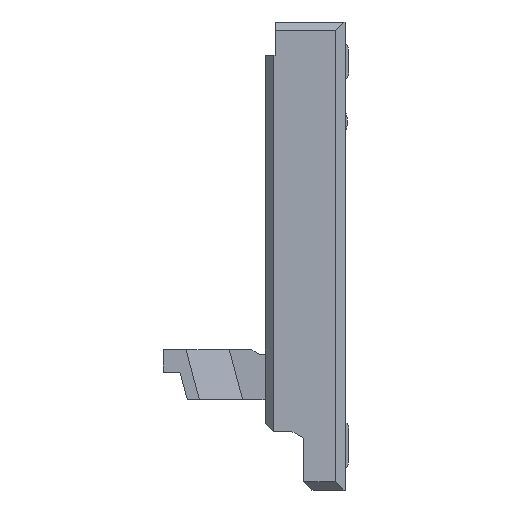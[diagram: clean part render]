
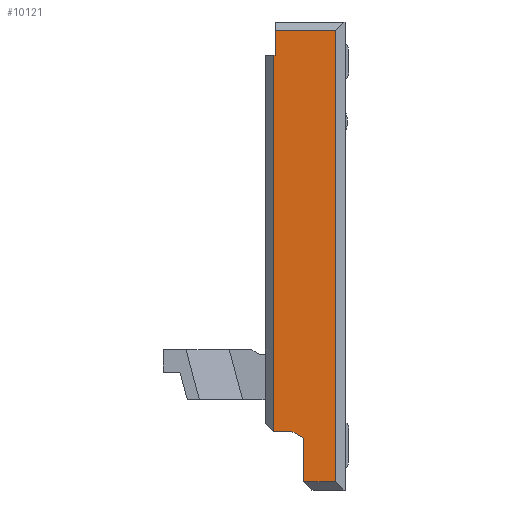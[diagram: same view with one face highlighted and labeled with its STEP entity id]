
A CAD part, left-side view. The second image highlights one B-rep face of the part: STEP entity #10121.
In plain terms, the highlighted planar face has unit normal (-1, 0, 0).
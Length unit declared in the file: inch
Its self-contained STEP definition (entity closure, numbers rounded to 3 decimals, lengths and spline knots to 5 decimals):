
#392 = LINE ( 'NONE', #15542, #17296 ) ;
#722 = EDGE_CURVE ( 'NONE', #9411, #16881, #15004, .T. ) ;
#1120 = CARTESIAN_POINT ( 'NONE',  ( -0.09134, 0.00236, 0. ) ) ;
#1184 = CARTESIAN_POINT ( 'NONE',  ( -0.09134, 0., 0. ) ) ;
#1200 = DIRECTION ( 'NONE',  ( 0., 0., 1. ) ) ;
#1861 = CARTESIAN_POINT ( 'NONE',  ( -0.09134, 0.00236, -0.00197 ) ) ;
#2448 = DIRECTION ( 'NONE',  ( 0., 1., 0. ) ) ;
#2456 = VECTOR ( 'NONE', #1200, 39.37008 ) ;
#2828 = DIRECTION ( 'NONE',  ( 0., 1., 0. ) ) ;
#2834 = DIRECTION ( 'NONE',  ( 0., 0., -1. ) ) ;
#3551 = VERTEX_POINT ( 'NONE', #6028 ) ;
#3937 = EDGE_CURVE ( 'NONE', #14808, #10163, #17462, .T. ) ;
#4745 = VERTEX_POINT ( 'NONE', #11105 ) ;
#5290 = CARTESIAN_POINT ( 'NONE',  ( -0.09134, 0.01654, -0.00787 ) ) ;
#5298 = EDGE_CURVE ( 'NONE', #8172, #4745, #14854, .T. ) ;
#5813 = EDGE_CURVE ( 'NONE', #3551, #16608, #8975, .T. ) ;
#6028 = CARTESIAN_POINT ( 'NONE',  ( -0.09134, 0.0126, -0.09646 ) ) ;
#6150 = VECTOR ( 'NONE', #11230, 39.37008 ) ;
#6612 = ORIENTED_EDGE ( 'NONE', *, *, #20192, .F. ) ;
#6684 = VECTOR ( 'NONE', #2828, 39.37008 ) ;
#6862 = VECTOR ( 'NONE', #12933, 39.37008 ) ;
#6872 = ORIENTED_EDGE ( 'NONE', *, *, #3937, .F. ) ;
#7240 = DIRECTION ( 'NONE',  ( 0., 0., 1. ) ) ;
#7447 = CARTESIAN_POINT ( 'NONE',  ( -0.09134, 0.01929, -0.00197 ) ) ;
#7515 = CARTESIAN_POINT ( 'NONE',  ( -0.09134, 0.00984, -0.10827 ) ) ;
#7755 = EDGE_CURVE ( 'NONE', #4745, #3551, #12225, .T. ) ;
#7902 = ORIENTED_EDGE ( 'NONE', *, *, #722, .T. ) ;
#8172 = VERTEX_POINT ( 'NONE', #7515 ) ;
#8384 = VECTOR ( 'NONE', #14317, 39.37008 ) ;
#8607 = EDGE_CURVE ( 'NONE', #14808, #19193, #392, .T. ) ;
#8891 = ORIENTED_EDGE ( 'NONE', *, *, #5813, .F. ) ;
#8975 = LINE ( 'NONE', #10998, #12294 ) ;
#9385 = ORIENTED_EDGE ( 'NONE', *, *, #8607, .T. ) ;
#9411 = VERTEX_POINT ( 'NONE', #10773 ) ;
#10121 = ADVANCED_FACE ( 'NONE', ( #21050 ), #11035, .F. ) ;
#10163 = VERTEX_POINT ( 'NONE', #17642 ) ;
#10209 = VECTOR ( 'NONE', #14004, 39.37008 ) ;
#10773 = CARTESIAN_POINT ( 'NONE',  ( -0.09134, 0.00236, -0.10827 ) ) ;
#10998 = CARTESIAN_POINT ( 'NONE',  ( -0.09134, 0., -0.09646 ) ) ;
#11020 = ORIENTED_EDGE ( 'NONE', *, *, #5298, .F. ) ;
#11035 = PLANE ( 'NONE',  #11879 ) ;
#11105 = CARTESIAN_POINT ( 'NONE',  ( -0.09134, 0.00984, -0.09803 ) ) ;
#11152 = CARTESIAN_POINT ( 'NONE',  ( -0.09134, 0.00984, 0. ) ) ;
#11230 = DIRECTION ( 'NONE',  ( 0., 0., 1. ) ) ;
#11235 = LINE ( 'NONE', #19398, #6862 ) ;
#11879 = AXIS2_PLACEMENT_3D ( 'NONE', #1184, #12652, #2834 ) ;
#12225 = LINE ( 'NONE', #12668, #8384 ) ;
#12294 = VECTOR ( 'NONE', #15815, 39.37008 ) ;
#12650 = CARTESIAN_POINT ( 'NONE',  ( -0.09134, 0., -0.10827 ) ) ;
#12652 = DIRECTION ( 'NONE',  ( 1., 0., 0. ) ) ;
#12668 = CARTESIAN_POINT ( 'NONE',  ( -0.09134, 0.00984, -0.09803 ) ) ;
#12933 = DIRECTION ( 'NONE',  ( 0., 0., 1. ) ) ;
#13136 = VECTOR ( 'NONE', #7240, 39.37008 ) ;
#13453 = EDGE_LOOP ( 'NONE', ( #21007, #6872, #9385, #6612, #8891, #16417, #11020, #15479, #7902 ) ) ;
#14004 = DIRECTION ( 'NONE',  ( 0., 1., 0. ) ) ;
#14317 = DIRECTION ( 'NONE',  ( 0., 0.868, 0.496 ) ) ;
#14544 = LINE ( 'NONE', #7447, #10209 ) ;
#14808 = VERTEX_POINT ( 'NONE', #5290 ) ;
#14854 = LINE ( 'NONE', #11152, #6150 ) ;
#15004 = LINE ( 'NONE', #1120, #2456 ) ;
#15120 = EDGE_CURVE ( 'NONE', #9411, #8172, #19175, .T. ) ;
#15479 = ORIENTED_EDGE ( 'NONE', *, *, #15120, .F. ) ;
#15542 = CARTESIAN_POINT ( 'NONE',  ( -0.09134, 0.03466, -0.00787 ) ) ;
#15815 = DIRECTION ( 'NONE',  ( 0., 1., 0. ) ) ;
#16417 = ORIENTED_EDGE ( 'NONE', *, *, #7755, .F. ) ;
#16522 = EDGE_CURVE ( 'NONE', #16881, #10163, #14544, .T. ) ;
#16608 = VERTEX_POINT ( 'NONE', #17414 ) ;
#16667 = CARTESIAN_POINT ( 'NONE',  ( -0.09134, 0.01693, -0.00787 ) ) ;
#16881 = VERTEX_POINT ( 'NONE', #1861 ) ;
#17003 = CARTESIAN_POINT ( 'NONE',  ( -0.09134, 0.01654, 0. ) ) ;
#17296 = VECTOR ( 'NONE', #2448, 39.37008 ) ;
#17414 = CARTESIAN_POINT ( 'NONE',  ( -0.09134, 0.01693, -0.09646 ) ) ;
#17462 = LINE ( 'NONE', #17003, #13136 ) ;
#17642 = CARTESIAN_POINT ( 'NONE',  ( -0.09134, 0.01654, -0.00197 ) ) ;
#19175 = LINE ( 'NONE', #12650, #6684 ) ;
#19193 = VERTEX_POINT ( 'NONE', #16667 ) ;
#19398 = CARTESIAN_POINT ( 'NONE',  ( -0.09134, 0.01693, 0. ) ) ;
#20192 = EDGE_CURVE ( 'NONE', #16608, #19193, #11235, .T. ) ;
#21007 = ORIENTED_EDGE ( 'NONE', *, *, #16522, .T. ) ;
#21050 = FACE_OUTER_BOUND ( 'NONE', #13453, .T. ) ;
